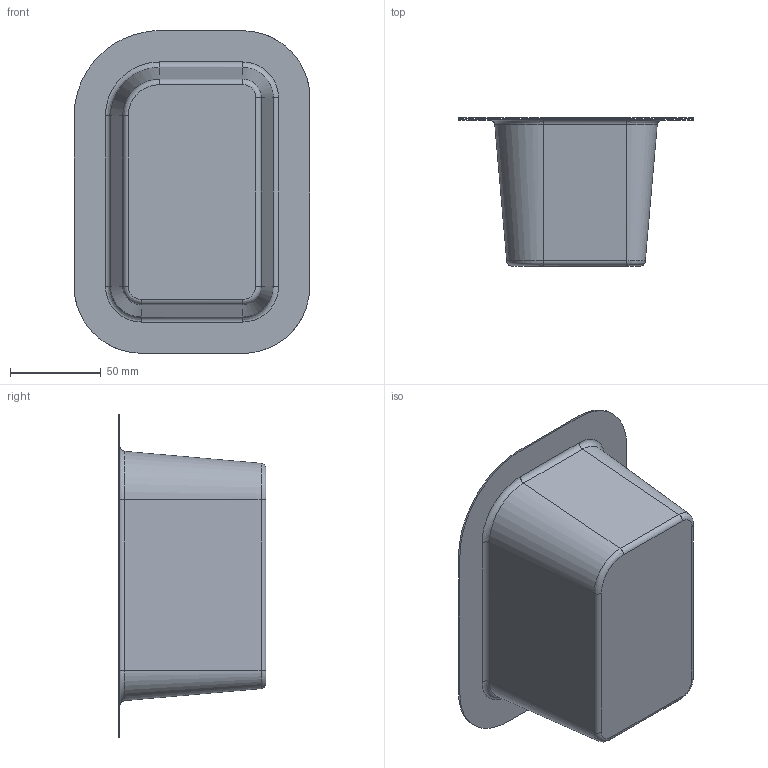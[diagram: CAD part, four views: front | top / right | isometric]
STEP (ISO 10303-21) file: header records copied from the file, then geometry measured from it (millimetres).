
FILE_DESCRIPTION(('CATIA V5 STEP Exchange'),'2;1');
FILE_NAME('C:\_Andres\UNIVERSIDAD\IQS\ASIGNATURAS\DAO\Controles\1617\c3\2inicio\Puig_Bataller_control3_v24.stp','2017-02-17T14:22:10+00:00',('none'),('none'),'CATIA Version 5-6 Release 2014 SP1 HF18','CATIA V5 STEP AP203','none');
FILE_SCHEMA(('CONFIG_CONTROL_DESIGN'));
Length unit declared in the file: millimetre
Products named in the file (1): Puig_Bataller_control3_v24
Bounding box: 130.12 x 81.69 x 178.12 mm (x, y, z)
Surface area: 72424.4 mm2 (no closed solid volume)
Topology: 0 solids, 2 shells, 27 faces, 80 edges, 57 vertices
Faces by surface type: bspline 16, cylinder 8, plane 3
Entity records: 1925 total; most frequent: CARTESIAN_POINT 1329, ORIENTED_EDGE 128, EDGE_CURVE 72, B_SPLINE_CURVE_WITH_KNOTS 54, DIRECTION 50, VERTEX_POINT 48, EDGE_LOOP 28, ADVANCED_FACE 27
